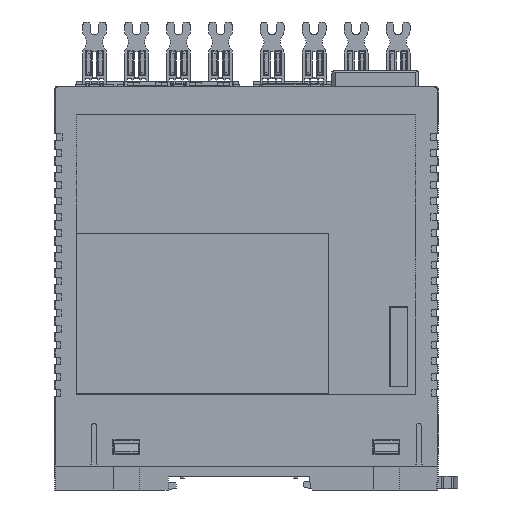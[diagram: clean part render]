
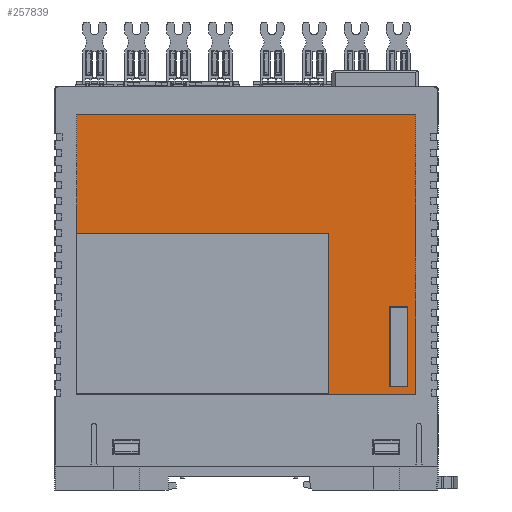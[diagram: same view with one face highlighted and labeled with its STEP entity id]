
A CAD part, left-side view. The second image highlights one B-rep face of the part: STEP entity #257839.
In plain terms, the highlighted planar face has unit normal (-1, 0, 0).
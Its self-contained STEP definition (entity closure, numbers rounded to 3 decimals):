
#3821 = DIRECTION ( 'NONE',  ( 0., -1., 0. ) ) ;
#5542 = VERTEX_POINT ( 'NONE', #136158 ) ;
#5555 = DIRECTION ( 'NONE',  ( 0., 0., 1. ) ) ;
#8518 = VERTEX_POINT ( 'NONE', #100923 ) ;
#10520 = VECTOR ( 'NONE', #157180, 1000. ) ;
#18401 = DIRECTION ( 'NONE',  ( 0., 0., 1. ) ) ;
#21320 = VECTOR ( 'NONE', #222257, 1000. ) ;
#21716 = CARTESIAN_POINT ( 'NONE',  ( -35.9, 42.39, 18.01 ) ) ;
#24452 = CARTESIAN_POINT ( 'NONE',  ( -35.9, 42.4, 18. ) ) ;
#25336 = CARTESIAN_POINT ( 'NONE',  ( -35.9, -40.4, 19.8 ) ) ;
#30992 = EDGE_LOOP ( 'NONE', ( #34162, #72119, #102977, #94554 ) ) ;
#34162 = ORIENTED_EDGE ( 'NONE', *, *, #250596, .T. ) ;
#39498 = VECTOR ( 'NONE', #168524, 1000. ) ;
#40328 = EDGE_CURVE ( 'NONE', #127875, #188957, #221310, .T. ) ;
#42346 = CARTESIAN_POINT ( 'NONE',  ( -35.9, -35.9, 19.8 ) ) ;
#42808 = LINE ( 'NONE', #107634, #90761 ) ;
#46049 = VECTOR ( 'NONE', #50746, 1000. ) ;
#46223 = VERTEX_POINT ( 'NONE', #246312 ) ;
#49560 = VERTEX_POINT ( 'NONE', #80943 ) ;
#50746 = DIRECTION ( 'NONE',  ( 0., 0., -1. ) ) ;
#59536 = EDGE_CURVE ( 'NONE', #87349, #100323, #130212, .T. ) ;
#61162 = LINE ( 'NONE', #119688, #109167 ) ;
#62918 = DIRECTION ( 'NONE',  ( 0., 0., -1. ) ) ;
#71607 = CARTESIAN_POINT ( 'NONE',  ( -35.9, -35.9, 39.8 ) ) ;
#72119 = ORIENTED_EDGE ( 'NONE', *, *, #152256, .T. ) ;
#79080 = CARTESIAN_POINT ( 'NONE',  ( -35.9, 42.39, 18.01 ) ) ;
#80943 = CARTESIAN_POINT ( 'NONE',  ( -35.9, -35.9, 19.8 ) ) ;
#82519 = VERTEX_POINT ( 'NONE', #257102 ) ;
#83033 = EDGE_LOOP ( 'NONE', ( #181357, #236961, #187003, #137712 ) ) ;
#86984 = FACE_BOUND ( 'NONE', #83033, .T. ) ;
#87349 = VERTEX_POINT ( 'NONE', #124482 ) ;
#88466 = EDGE_CURVE ( 'NONE', #8518, #127875, #148921, .T. ) ;
#89067 = ORIENTED_EDGE ( 'NONE', *, *, #146770, .F. ) ;
#90761 = VECTOR ( 'NONE', #5555, 1000. ) ;
#91501 = CARTESIAN_POINT ( 'NONE',  ( -35.9, 42.4, 88. ) ) ;
#92619 = DIRECTION ( 'NONE',  ( -1., 0., 0. ) ) ;
#93852 = LINE ( 'NONE', #229426, #39498 ) ;
#94554 = ORIENTED_EDGE ( 'NONE', *, *, #207525, .T. ) ;
#96235 = CARTESIAN_POINT ( 'NONE',  ( -35.9, 42.4, 88. ) ) ;
#99559 = ORIENTED_EDGE ( 'NONE', *, *, #40328, .F. ) ;
#99612 = VECTOR ( 'NONE', #182757, 1000. ) ;
#100323 = VERTEX_POINT ( 'NONE', #21716 ) ;
#100923 = CARTESIAN_POINT ( 'NONE',  ( -35.9, -40.4, 19.8 ) ) ;
#102977 = ORIENTED_EDGE ( 'NONE', *, *, #122573, .T. ) ;
#107634 = CARTESIAN_POINT ( 'NONE',  ( -35.9, 42.39, 58.01 ) ) ;
#109167 = VECTOR ( 'NONE', #221627, 1000. ) ;
#119688 = CARTESIAN_POINT ( 'NONE',  ( -35.9, -35.9, 19.8 ) ) ;
#122573 = EDGE_CURVE ( 'NONE', #5542, #46223, #167199, .T. ) ;
#124482 = CARTESIAN_POINT ( 'NONE',  ( -35.9, -20.61, 18.01 ) ) ;
#125466 = LINE ( 'NONE', #91501, #240676 ) ;
#127875 = VERTEX_POINT ( 'NONE', #196296 ) ;
#129971 = CARTESIAN_POINT ( 'NONE',  ( -35.9, -35.9, 39.8 ) ) ;
#130212 = LINE ( 'NONE', #79080, #21320 ) ;
#136158 = CARTESIAN_POINT ( 'NONE',  ( -35.9, -42.4, 18. ) ) ;
#137712 = ORIENTED_EDGE ( 'NONE', *, *, #177219, .T. ) ;
#141445 = FACE_BOUND ( 'NONE', #146449, .T. ) ;
#146449 = EDGE_LOOP ( 'NONE', ( #246480, #89067, #99559, #149275 ) ) ;
#146770 = EDGE_CURVE ( 'NONE', #188957, #49560, #183947, .T. ) ;
#148921 = LINE ( 'NONE', #25336, #203371 ) ;
#149275 = ORIENTED_EDGE ( 'NONE', *, *, #88466, .F. ) ;
#152256 = EDGE_CURVE ( 'NONE', #236439, #5542, #252899, .T. ) ;
#153461 = PLANE ( 'NONE',  #246038 ) ;
#154813 = LINE ( 'NONE', #193816, #46049 ) ;
#157180 = DIRECTION ( 'NONE',  ( 0., 1., 0. ) ) ;
#157225 = EDGE_CURVE ( 'NONE', #100323, #82519, #42808, .T. ) ;
#167199 = LINE ( 'NONE', #243015, #215290 ) ;
#168465 = DIRECTION ( 'NONE',  ( 0., 0., 1. ) ) ;
#168524 = DIRECTION ( 'NONE',  ( 0., -1., 0. ) ) ;
#172904 = DIRECTION ( 'NONE',  ( 0., 0., -1. ) ) ;
#177219 = EDGE_CURVE ( 'NONE', #82519, #178740, #93852, .T. ) ;
#178740 = VERTEX_POINT ( 'NONE', #230352 ) ;
#181357 = ORIENTED_EDGE ( 'NONE', *, *, #200001, .T. ) ;
#182757 = DIRECTION ( 'NONE',  ( 0., 1., 0. ) ) ;
#183947 = LINE ( 'NONE', #42346, #225582 ) ;
#187003 = ORIENTED_EDGE ( 'NONE', *, *, #157225, .T. ) ;
#188957 = VERTEX_POINT ( 'NONE', #129971 ) ;
#193816 = CARTESIAN_POINT ( 'NONE',  ( -35.9, -20.61, 58.01 ) ) ;
#194616 = CARTESIAN_POINT ( 'NONE',  ( -35.9, 0., 0. ) ) ;
#196296 = CARTESIAN_POINT ( 'NONE',  ( -35.9, -40.4, 39.8 ) ) ;
#198500 = VECTOR ( 'NONE', #3821, 1000. ) ;
#200001 = EDGE_CURVE ( 'NONE', #178740, #87349, #154813, .T. ) ;
#203371 = VECTOR ( 'NONE', #168465, 1000. ) ;
#207525 = EDGE_CURVE ( 'NONE', #46223, #215818, #263299, .T. ) ;
#215290 = VECTOR ( 'NONE', #18401, 1000. ) ;
#215818 = VERTEX_POINT ( 'NONE', #96235 ) ;
#221310 = LINE ( 'NONE', #71607, #99612 ) ;
#221627 = DIRECTION ( 'NONE',  ( 0., -1., 0. ) ) ;
#222257 = DIRECTION ( 'NONE',  ( 0., 1., 0. ) ) ;
#225582 = VECTOR ( 'NONE', #62918, 1000. ) ;
#229426 = CARTESIAN_POINT ( 'NONE',  ( -35.9, 42.39, 58.01 ) ) ;
#230352 = CARTESIAN_POINT ( 'NONE',  ( -35.9, -20.61, 58.01 ) ) ;
#235770 = DIRECTION ( 'NONE',  ( 0., 0., 1. ) ) ;
#236439 = VERTEX_POINT ( 'NONE', #261219 ) ;
#236961 = ORIENTED_EDGE ( 'NONE', *, *, #59536, .T. ) ;
#240676 = VECTOR ( 'NONE', #172904, 1000. ) ;
#243015 = CARTESIAN_POINT ( 'NONE',  ( -35.9, -42.4, 18. ) ) ;
#243868 = FACE_OUTER_BOUND ( 'NONE', #30992, .T. ) ;
#246038 = AXIS2_PLACEMENT_3D ( 'NONE', #194616, #92619, #235770 ) ;
#246312 = CARTESIAN_POINT ( 'NONE',  ( -35.9, -42.4, 88. ) ) ;
#246480 = ORIENTED_EDGE ( 'NONE', *, *, #259188, .F. ) ;
#250596 = EDGE_CURVE ( 'NONE', #215818, #236439, #125466, .T. ) ;
#252899 = LINE ( 'NONE', #24452, #198500 ) ;
#257102 = CARTESIAN_POINT ( 'NONE',  ( -35.9, 42.39, 58.01 ) ) ;
#257839 = ADVANCED_FACE ( 'NONE', ( #141445, #243868, #86984 ), #153461, .T. ) ;
#259080 = CARTESIAN_POINT ( 'NONE',  ( -35.9, -42.4, 88. ) ) ;
#259188 = EDGE_CURVE ( 'NONE', #49560, #8518, #61162, .T. ) ;
#261219 = CARTESIAN_POINT ( 'NONE',  ( -35.9, 42.4, 18. ) ) ;
#263299 = LINE ( 'NONE', #259080, #10520 ) ;
